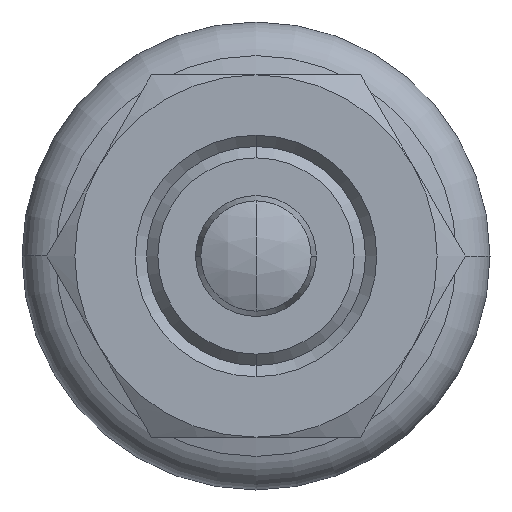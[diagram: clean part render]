
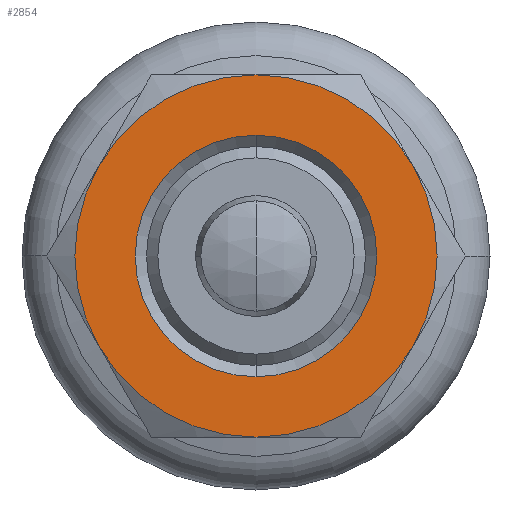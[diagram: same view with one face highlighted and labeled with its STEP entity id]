
A CAD part, front view. The second image highlights one B-rep face of the part: STEP entity #2854.
In plain terms, the highlighted planar face has unit normal (0, -1, 0).
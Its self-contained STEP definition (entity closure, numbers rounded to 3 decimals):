
#154 = CARTESIAN_POINT ( 'NONE',  ( -10.392, 0., -6. ) ) ;
#350 = CARTESIAN_POINT ( 'NONE',  ( 0., 0., 0. ) ) ;
#433 = CIRCLE ( 'NONE', #649, 12. ) ;
#441 = VERTEX_POINT ( 'NONE', #154 ) ;
#447 = DIRECTION ( 'NONE',  ( 0., 0., -1. ) ) ;
#463 = CARTESIAN_POINT ( 'NONE',  ( 0., 0., 0. ) ) ;
#487 = DIRECTION ( 'NONE',  ( 0., -1., 0. ) ) ;
#489 = CARTESIAN_POINT ( 'NONE',  ( 0., 0., 0. ) ) ;
#584 = AXIS2_PLACEMENT_3D ( 'NONE', #3715, #487, #2744 ) ;
#633 = AXIS2_PLACEMENT_3D ( 'NONE', #489, #2288, #447 ) ;
#649 = AXIS2_PLACEMENT_3D ( 'NONE', #1114, #3630, #773 ) ;
#762 = VERTEX_POINT ( 'NONE', #3368 ) ;
#773 = DIRECTION ( 'NONE',  ( 0., 0., -1. ) ) ;
#907 = DIRECTION ( 'NONE',  ( 0., -1., 0. ) ) ;
#944 = EDGE_CURVE ( 'NONE', #1971, #762, #1009, .T. ) ;
#952 = CARTESIAN_POINT ( 'NONE',  ( 10.392, 0., -6. ) ) ;
#971 = VERTEX_POINT ( 'NONE', #4078 ) ;
#975 = EDGE_CURVE ( 'NONE', #3032, #2106, #3347, .T. ) ;
#985 = ORIENTED_EDGE ( 'NONE', *, *, #944, .F. ) ;
#1009 = CIRCLE ( 'NONE', #633, 8. ) ;
#1079 = DIRECTION ( 'NONE',  ( 0., 0., -1. ) ) ;
#1114 = CARTESIAN_POINT ( 'NONE',  ( 0., 0., 0. ) ) ;
#1357 = CIRCLE ( 'NONE', #1523, 12. ) ;
#1392 = DIRECTION ( 'NONE',  ( 0., 0., -1. ) ) ;
#1434 = CARTESIAN_POINT ( 'NONE',  ( 0., 0., 0. ) ) ;
#1472 = CARTESIAN_POINT ( 'NONE',  ( 0., 0., -12. ) ) ;
#1511 = DIRECTION ( 'NONE',  ( 0., -1., 0. ) ) ;
#1523 = AXIS2_PLACEMENT_3D ( 'NONE', #2685, #2005, #3007 ) ;
#1619 = DIRECTION ( 'NONE',  ( 0., 0., -1. ) ) ;
#1872 = DIRECTION ( 'NONE',  ( 0., 0., -1. ) ) ;
#1971 = VERTEX_POINT ( 'NONE', #2004 ) ;
#2004 = CARTESIAN_POINT ( 'NONE',  ( 0., 0., -8. ) ) ;
#2005 = DIRECTION ( 'NONE',  ( 0., -1., 0. ) ) ;
#2106 = VERTEX_POINT ( 'NONE', #952 ) ;
#2187 = AXIS2_PLACEMENT_3D ( 'NONE', #463, #3329, #1872 ) ;
#2288 = DIRECTION ( 'NONE',  ( 0., -1., 0. ) ) ;
#2376 = AXIS2_PLACEMENT_3D ( 'NONE', #2986, #1511, #2962 ) ;
#2501 = ORIENTED_EDGE ( 'NONE', *, *, #4533, .T. ) ;
#2505 = VERTEX_POINT ( 'NONE', #4654 ) ;
#2511 = EDGE_CURVE ( 'NONE', #762, #1971, #4062, .T. ) ;
#2519 = ORIENTED_EDGE ( 'NONE', *, *, #2855, .T. ) ;
#2685 = CARTESIAN_POINT ( 'NONE',  ( 0., 0., 0. ) ) ;
#2744 = DIRECTION ( 'NONE',  ( 0., 0., -1. ) ) ;
#2854 = ADVANCED_FACE ( 'NONE', ( #4346, #4002 ), #4076, .T. ) ;
#2855 = EDGE_CURVE ( 'NONE', #441, #3032, #4212, .T. ) ;
#2877 = EDGE_CURVE ( 'NONE', #2106, #971, #1357, .T. ) ;
#2898 = DIRECTION ( 'NONE',  ( 0., -1., 0. ) ) ;
#2955 = ORIENTED_EDGE ( 'NONE', *, *, #975, .T. ) ;
#2962 = DIRECTION ( 'NONE',  ( 0., 0., -1. ) ) ;
#2986 = CARTESIAN_POINT ( 'NONE',  ( 0., 0., 0. ) ) ;
#3007 = DIRECTION ( 'NONE',  ( 0., 0., -1. ) ) ;
#3032 = VERTEX_POINT ( 'NONE', #1472 ) ;
#3130 = ORIENTED_EDGE ( 'NONE', *, *, #4237, .T. ) ;
#3207 = AXIS2_PLACEMENT_3D ( 'NONE', #3741, #907, #1619 ) ;
#3220 = AXIS2_PLACEMENT_3D ( 'NONE', #1434, #2898, #1079 ) ;
#3251 = EDGE_LOOP ( 'NONE', ( #2955, #4658, #3296, #3130, #2501, #2519 ) ) ;
#3296 = ORIENTED_EDGE ( 'NONE', *, *, #4091, .T. ) ;
#3329 = DIRECTION ( 'NONE',  ( 0., -1., 0. ) ) ;
#3347 = CIRCLE ( 'NONE', #2376, 12. ) ;
#3368 = CARTESIAN_POINT ( 'NONE',  ( 0., 0., 8. ) ) ;
#3376 = ORIENTED_EDGE ( 'NONE', *, *, #2511, .F. ) ;
#3630 = DIRECTION ( 'NONE',  ( 0., -1., 0. ) ) ;
#3633 = VERTEX_POINT ( 'NONE', #4442 ) ;
#3670 = CIRCLE ( 'NONE', #3748, 12. ) ;
#3715 = CARTESIAN_POINT ( 'NONE',  ( 8., 0., 0. ) ) ;
#3741 = CARTESIAN_POINT ( 'NONE',  ( 0., 0., 0. ) ) ;
#3748 = AXIS2_PLACEMENT_3D ( 'NONE', #350, #4674, #1392 ) ;
#4002 = FACE_BOUND ( 'NONE', #4426, .T. ) ;
#4062 = CIRCLE ( 'NONE', #3220, 8. ) ;
#4076 = PLANE ( 'NONE',  #584 ) ;
#4078 = CARTESIAN_POINT ( 'NONE',  ( 10.392, 0., 6. ) ) ;
#4091 = EDGE_CURVE ( 'NONE', #971, #3633, #3670, .T. ) ;
#4139 = CIRCLE ( 'NONE', #2187, 12. ) ;
#4212 = CIRCLE ( 'NONE', #3207, 12. ) ;
#4237 = EDGE_CURVE ( 'NONE', #3633, #2505, #433, .T. ) ;
#4346 = FACE_OUTER_BOUND ( 'NONE', #3251, .T. ) ;
#4426 = EDGE_LOOP ( 'NONE', ( #985, #3376 ) ) ;
#4442 = CARTESIAN_POINT ( 'NONE',  ( 0., 0., 12. ) ) ;
#4533 = EDGE_CURVE ( 'NONE', #2505, #441, #4139, .T. ) ;
#4654 = CARTESIAN_POINT ( 'NONE',  ( -10.392, 0., 6. ) ) ;
#4658 = ORIENTED_EDGE ( 'NONE', *, *, #2877, .T. ) ;
#4674 = DIRECTION ( 'NONE',  ( 0., -1., 0. ) ) ;
